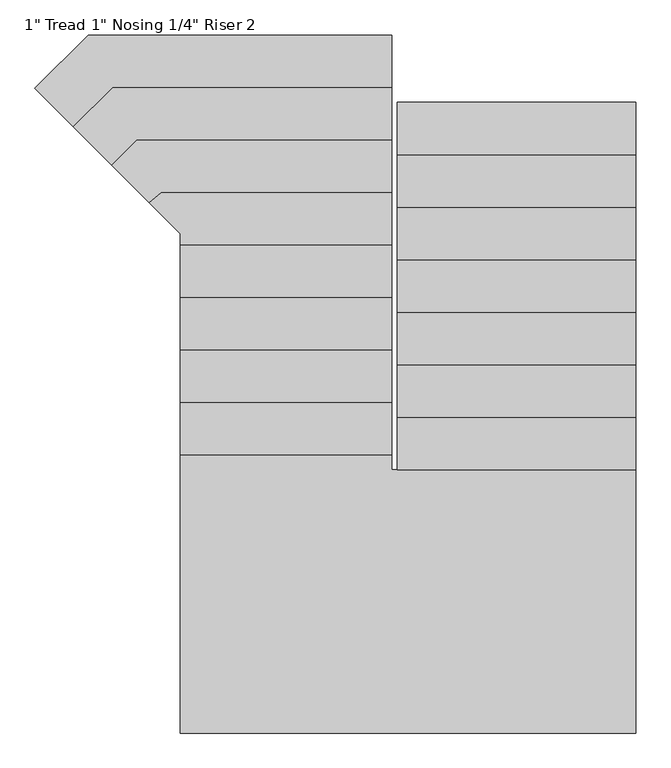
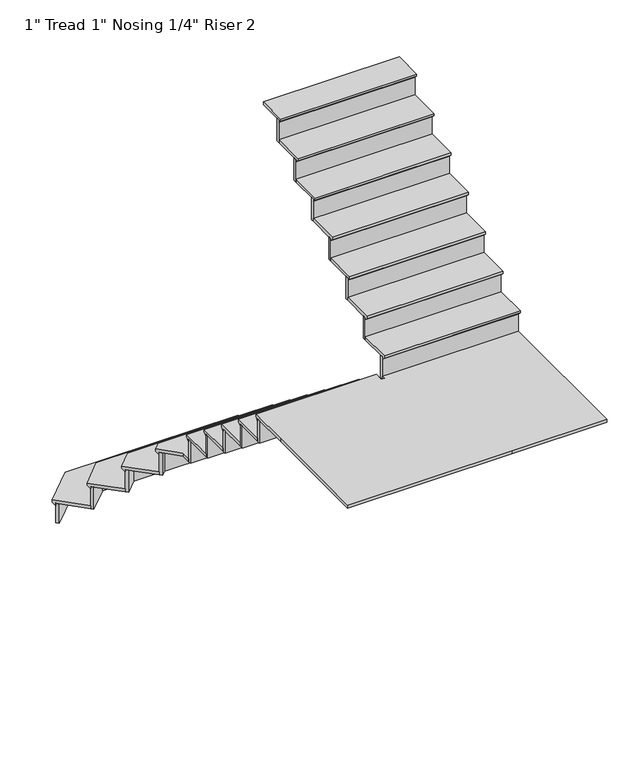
"""IFC4 building model written with IfcOpenShell, lengths in millimetres: stair flight geometry."""

from ifc_helpers import new_model, si_unit, origin, place, context, project, spatial, faceted_brep, source, transform, mapped, element, save


def stair_flight_4c4e7644(model_context):
    return source(origin(), model_context, "Body", "Brep", [
        faceted_brep([(3675.4082366, 3613.15, 172.24375), (3675.4082366, 3613.15, 191.29375), (5079.9999879, 3613.15, 191.29375), (5079.9999879, 3613.15, 172.24375), (3685.929261, 3587.75, 146.84375), (5079.9999879, 3587.75, 146.84375), (5079.9999879, 3587.75, 165.89375), (3685.929261, 3587.75, 165.89375), (3428.3791183, 3366.1208817, 191.29375), (3624.2284939, 3170.2715061, 191.29375), (3798.5927029, 3344.6357152, 191.29375), (5079.9999879, 3344.6357152, 191.29375), (5079.9999879, 3344.6357152, 165.89375), (3798.5927029, 3344.6357152, 165.89375), (3624.2284939, 3170.2715061, 165.89375), (3446.3396305, 3348.1603695, 165.89375), (3428.3791183, 3366.1208817, 172.24375), (3446.3396305, 3348.1603695, 146.84375)], [[[0, 1, 2, 3]], [[4, 0, 3, 5]], [[4, 5, 6, 7]], [[2, 1, 8, 9, 10, 11]], [[6, 12, 13, 14, 15, 7]], [[2, 11, 12, 6, 5, 3]], [[9, 8, 16, 17, 15, 14]], [[11, 10, 13, 12]], [[16, 8, 1, 0]], [[17, 16, 0, 4]], [[17, 4, 7, 15]], [[10, 9, 14, 13]]]),
        faceted_brep([(5079.9999879, 3587.75, 165.89375), (5079.9999879, 3562.35, 165.89375), (5079.9999879, 3562.35, 0.0), (5079.9999879, 3587.75, 0.0), (3685.929261, 3587.75, 0.0), (3685.929261, 3587.75, 165.89375), (3696.4502855, 3562.35, 0.0), (3696.4502855, 3562.35, 165.89375), (3446.3396305, 3348.1603695, 165.89375), (3446.3396305, 3348.1603695, 0.0), (3464.3001428, 3330.1998572, 0.0), (3464.3001428, 3330.1998572, 165.89375)], [[[0, 1, 2, 3]], [[4, 5, 0, 3]], [[6, 4, 3, 2]], [[7, 6, 2, 1]], [[5, 7, 1, 0]], [[8, 9, 10, 11]], [[9, 8, 5, 4]], [[10, 9, 4, 6]], [[11, 10, 6, 7]], [[8, 11, 7, 5]]]),
        faceted_brep([(5079.9999879, 3344.6357152, 357.1875), (5079.9999879, 3319.2357152, 357.1875), (5079.9999879, 3319.2357152, 165.89375), (5079.9999879, 3344.6357152, 165.89375), (3798.5927029, 3344.6357152, 165.89375), (3798.5927029, 3344.6357152, 357.1875), (3809.1137274, 3319.2357152, 165.89375), (3809.1137274, 3319.2357152, 357.1875), (3624.2284939, 3170.2715061, 357.1875), (3624.2284939, 3170.2715061, 165.89375), (3642.1890061, 3152.3109939, 165.89375), (3642.1890061, 3152.3109939, 357.1875)], [[[0, 1, 2, 3]], [[4, 5, 0, 3]], [[6, 4, 3, 2]], [[7, 6, 2, 1]], [[5, 7, 1, 0]], [[8, 9, 10, 11]], [[9, 8, 5, 4]], [[10, 9, 4, 6]], [[11, 10, 6, 7]], [[8, 11, 7, 5]]]),
        faceted_brep([(5079.9999879, 3370.0357152, 382.5875), (3788.0716784, 3370.0357152, 382.5875), (3606.2679816, 3188.2320184, 382.5875), (3802.1173572, 2992.3826428, 382.5875), (3911.2561447, 3101.5214303, 382.5875), (5079.9999879, 3101.5214303, 382.5875), (5079.9999879, 3344.6357152, 357.1875), (5079.9999879, 3101.5214303, 357.1875), (3911.2561447, 3101.5214303, 357.1875), (3802.1173572, 2992.3826428, 357.1875), (3624.2284939, 3170.2715061, 357.1875), (3798.5927029, 3344.6357152, 357.1875), (5079.9999879, 3344.6357152, 338.1375), (5079.9999879, 3370.0357152, 363.5375), (3606.2679816, 3188.2320184, 363.5375), (3624.2284939, 3170.2715061, 338.1375), (3788.0716784, 3370.0357152, 363.5375), (3798.5927029, 3344.6357152, 338.1375)], [[[0, 1, 2, 3, 4, 5]], [[6, 7, 8, 9, 10, 11]], [[0, 5, 7, 6, 12, 13]], [[3, 2, 14, 15, 10, 9]], [[5, 4, 8, 7]], [[16, 1, 0, 13]], [[17, 16, 13, 12]], [[17, 12, 6, 11]], [[4, 3, 9, 8]], [[14, 2, 1, 16]], [[15, 14, 16, 17]], [[15, 17, 11, 10]]]),
        faceted_brep([(4102.0996703, 1885.9499516, 1504.95), (4102.0996703, 1885.9499516, 1313.65625), (4102.0996703, 1860.5499516, 1313.65625), (4102.0996703, 1860.5499516, 1504.95), (5079.9999879, 1885.9499516, 1504.95), (5079.9999879, 1860.5499516, 1504.95), (5079.9999879, 1860.5499516, 1313.65625), (5079.9999879, 1885.9499516, 1313.65625)], [[[0, 1, 2, 3]], [[4, 5, 6, 7]], [[1, 0, 4, 7]], [[2, 1, 7, 6]], [[3, 2, 6, 5]], [[0, 3, 5, 4]]]),
        faceted_brep([(5079.9999879, 1911.3499516, 1530.35), (4102.0996703, 1911.3499516, 1530.35), (4102.0996703, 1642.8357212, 1530.35), (5079.9999879, 1642.8357212, 1530.35), (5079.9999879, 1885.9499516, 1504.95), (5079.9999879, 1642.8357212, 1504.95), (4102.0996703, 1642.8357212, 1504.95), (4102.0996703, 1885.9499516, 1504.95), (5079.9999879, 1885.9499516, 1485.9), (5079.9999879, 1911.3499516, 1511.3), (4102.0996703, 1911.3499516, 1511.3), (4102.0996703, 1885.9499516, 1485.9)], [[[0, 1, 2, 3]], [[4, 5, 6, 7]], [[0, 3, 5, 4, 8, 9]], [[2, 1, 10, 11, 7, 6]], [[3, 2, 6, 5]], [[10, 1, 0, 9]], [[11, 10, 9, 8]], [[11, 8, 4, 7]]]),
        faceted_brep([(4102.0996703, 1642.8357212, 1696.24375), (4102.0996703, 1642.8357212, 1504.95), (4102.0996703, 1617.4357212, 1504.95), (4102.0996703, 1617.4357212, 1696.24375), (5079.9999879, 1642.8357212, 1696.24375), (5079.9999879, 1617.4357212, 1696.24375), (5079.9999879, 1617.4357212, 1504.95), (5079.9999879, 1642.8357212, 1504.95)], [[[0, 1, 2, 3]], [[4, 5, 6, 7]], [[1, 0, 4, 7]], [[2, 1, 7, 6]], [[3, 2, 6, 5]], [[0, 3, 5, 4]]]),
        faceted_brep([(5105.4, 1625.6000484, 1721.64375), (5105.4, 1600.2000484, 1721.64375), (5079.9999879, 1600.2000484, 1721.64375), (5079.9999879, 1668.2357212, 1721.64375), (4102.0996703, 1668.2357212, 1721.64375), (4102.0996703, 1324.5030231, 1721.64375), (4102.0996703, 380.9621433, 1721.64375), (5438.3235129, 380.9621433, 1721.64375), (6210.2999999, 380.9621433, 1721.64375), (6210.2999999, 1600.2000484, 1721.64375), (6210.2999999, 1625.6000484, 1721.64375), (5105.4, 1600.2000484, 1696.24375), (5105.4, 1625.6000484, 1696.24375), (6210.2999999, 1625.6000484, 1696.24375), (6210.2999999, 1600.2000484, 1696.24375), (6210.2999999, 380.9621433, 1696.24375), (5438.3235129, 380.9621433, 1696.24375), (4102.0996703, 380.9621433, 1696.24375), (4102.0996703, 1324.5030231, 1696.24375), (4102.0996703, 1642.8357212, 1696.24375), (5079.9999879, 1642.8357212, 1696.24375), (5079.9999879, 1600.2000484, 1696.24375), (4102.0996703, 1668.2357212, 1702.59375), (4102.0996703, 1642.8357212, 1677.19375), (5079.9999879, 1668.2357212, 1702.59375), (5079.9999879, 1642.8357212, 1677.19375)], [[[0, 1, 2, 3, 4, 5, 6, 7, 8, 9, 10]], [[11, 12, 13, 14, 15, 16, 17, 18, 19, 20, 21]], [[1, 0, 12, 11]], [[2, 1, 11, 21]], [[5, 4, 22, 23, 19, 18]], [[6, 5, 18, 17]], [[7, 6, 17, 16]], [[8, 7, 16, 15]], [[0, 10, 13, 12]], [[23, 22, 24, 25]], [[23, 25, 20, 19]], [[3, 2, 21, 20, 25, 24]], [[9, 8, 15, 14]], [[10, 9, 14, 13]], [[22, 4, 3, 24]]]),
        faceted_brep([(6210.2999999, 1625.6000484, 1887.5375), (6210.2999999, 1625.6000484, 1696.24375), (6210.2999999, 1651.0000484, 1696.24375), (6210.2999999, 1651.0000484, 1887.5375), (5105.4, 1625.6000484, 1887.5375), (5105.4, 1651.0000484, 1887.5375), (5105.4, 1651.0000484, 1696.24375), (5105.4, 1625.6000484, 1696.24375)], [[[0, 1, 2, 3]], [[4, 5, 6, 7]], [[1, 0, 4, 7]], [[2, 1, 7, 6]], [[3, 2, 6, 5]], [[0, 3, 5, 4]]]),
        faceted_brep([(5105.4, 1600.2000484, 1912.9375), (6210.2999999, 1600.2000484, 1912.9375), (6210.2999999, 1868.7142788, 1912.9375), (5105.4, 1868.7142788, 1912.9375), (5105.4, 1625.6000484, 1887.5375), (5105.4, 1868.7142788, 1887.5375), (6210.2999999, 1868.7142788, 1887.5375), (6210.2999999, 1625.6000484, 1887.5375), (5105.4, 1625.6000484, 1868.4875), (5105.4, 1600.2000484, 1893.8875), (6210.2999999, 1600.2000484, 1893.8875), (6210.2999999, 1625.6000484, 1868.4875)], [[[0, 1, 2, 3]], [[4, 5, 6, 7]], [[0, 3, 5, 4, 8, 9]], [[2, 1, 10, 11, 7, 6]], [[3, 2, 6, 5]], [[10, 1, 0, 9]], [[11, 10, 9, 8]], [[11, 8, 4, 7]]]),
        faceted_brep([(6210.2999999, 1868.7142788, 2078.83125), (6210.2999999, 1868.7142788, 1887.5375), (6210.2999999, 1894.1142788, 1887.5375), (6210.2999999, 1894.1142788, 2078.83125), (5105.4, 1868.7142788, 2078.83125), (5105.4, 1894.1142788, 2078.83125), (5105.4, 1894.1142788, 1887.5375), (5105.4, 1868.7142788, 1887.5375)], [[[0, 1, 2, 3]], [[4, 5, 6, 7]], [[1, 0, 4, 7]], [[2, 1, 7, 6]], [[3, 2, 6, 5]], [[0, 3, 5, 4]]]),
        faceted_brep([(5105.4, 1843.3142788, 2104.23125), (6210.2999999, 1843.3142788, 2104.23125), (6210.2999999, 2111.8285091, 2104.23125), (5105.4, 2111.8285091, 2104.23125), (5105.4, 1868.7142788, 2078.83125), (5105.4, 2111.8285091, 2078.83125), (6210.2999999, 2111.8285091, 2078.83125), (6210.2999999, 1868.7142788, 2078.83125), (5105.4, 1868.7142788, 2059.78125), (5105.4, 1843.3142788, 2085.18125), (6210.2999999, 1843.3142788, 2085.18125), (6210.2999999, 1868.7142788, 2059.78125)], [[[0, 1, 2, 3]], [[4, 5, 6, 7]], [[0, 3, 5, 4, 8, 9]], [[2, 1, 10, 11, 7, 6]], [[3, 2, 6, 5]], [[10, 1, 0, 9]], [[11, 10, 9, 8]], [[11, 8, 4, 7]]]),
        faceted_brep([(5079.9999879, 3101.5214303, 548.48125), (5079.9999879, 3076.1214303, 548.48125), (5079.9999879, 3076.1214303, 357.1875), (5079.9999879, 3101.5214303, 357.1875), (3911.2561447, 3101.5214303, 357.1875), (3911.2561447, 3101.5214303, 548.48125), (3921.7771692, 3076.1214303, 357.1875), (3921.7771692, 3076.1214303, 548.48125), (3802.1173572, 2992.3826428, 548.48125), (3802.1173572, 2992.3826428, 357.1875), (3820.0778695, 2974.4221305, 357.1875), (3820.0778695, 2974.4221305, 548.48125)], [[[0, 1, 2, 3]], [[4, 5, 0, 3]], [[6, 4, 3, 2]], [[7, 6, 2, 1]], [[5, 7, 1, 0]], [[8, 9, 10, 11]], [[9, 8, 5, 4]], [[10, 9, 4, 6]], [[11, 10, 6, 7]], [[8, 11, 7, 5]]]),
        faceted_brep([(5079.9999879, 3126.9214303, 573.88125), (3900.7351203, 3126.9214303, 573.88125), (3784.156845, 3010.343155, 573.88125), (3976.9230716, 2817.5769284, 573.88125), (4022.8570861, 2858.4071636, 573.88125), (5079.9999879, 2858.4071636, 573.88125), (5079.9999879, 3101.5214303, 548.48125), (5079.9999879, 2858.4071636, 548.48125), (4022.8570861, 2858.4071636, 548.48125), (3976.9230716, 2817.5769284, 548.48125), (3802.1173572, 2992.3826428, 548.48125), (3911.2561447, 3101.5214303, 548.48125), (5079.9999879, 3101.5214303, 529.43125), (5079.9999879, 3126.9214303, 554.83125), (3784.156845, 3010.343155, 554.83125), (3802.1173572, 2992.3826428, 529.43125), (3900.7351203, 3126.9214303, 554.83125), (3911.2561447, 3101.5214303, 529.43125)], [[[0, 1, 2, 3, 4, 5]], [[6, 7, 8, 9, 10, 11]], [[0, 5, 7, 6, 12, 13]], [[3, 2, 14, 15, 10, 9]], [[5, 4, 8, 7]], [[16, 1, 0, 13]], [[17, 16, 13, 12]], [[17, 12, 6, 11]], [[4, 3, 9, 8]], [[14, 2, 1, 16]], [[15, 14, 16, 17]], [[15, 17, 11, 10]]]),
        faceted_brep([(6210.2999999, 3084.2857212, 3035.3), (6210.2999999, 3084.2857212, 2844.00625), (6210.2999999, 3109.6857212, 2844.00625), (6210.2999999, 3109.6857212, 3035.3), (5105.4, 3084.2857212, 3035.3), (5105.4, 3109.6857212, 3035.3), (5105.4, 3109.6857212, 2844.00625), (5105.4, 3084.2857212, 2844.00625)], [[[0, 1, 2, 3]], [[4, 5, 6, 7]], [[1, 0, 4, 7]], [[2, 1, 7, 6]], [[3, 2, 6, 5]], [[0, 3, 5, 4]]]),
        faceted_brep([(5105.4, 3058.8857212, 3060.7), (6210.2999999, 3058.8857212, 3060.7), (6210.2999999, 3301.9716587, 3060.7), (5105.4, 3301.9716587, 3060.7), (5105.4, 3084.2857212, 3035.3), (5105.4, 3301.9716587, 3035.3), (6210.2999999, 3301.9716587, 3035.3), (6210.2999999, 3084.2857212, 3035.3), (5105.4, 3084.2857212, 3016.25), (5105.4, 3058.8857212, 3041.65), (6210.2999999, 3058.8857212, 3041.65), (6210.2999999, 3084.2857212, 3016.25)], [[[0, 1, 2, 3]], [[4, 5, 6, 7]], [[0, 3, 5, 4, 8, 9]], [[2, 1, 10, 11, 7, 6]], [[3, 2, 6, 5]], [[10, 1, 0, 9]], [[11, 10, 9, 8]], [[11, 8, 4, 7]]]),
        faceted_brep([(3976.9230716, 2817.5769284, 739.775), (3976.9230716, 2817.5769284, 548.48125), (3994.9146305, 2799.5853695, 548.48125), (3994.9146305, 2799.5853695, 739.775), (4022.8570861, 2858.4071636, 739.775), (4022.8570861, 2858.4071636, 548.48125), (4032.5141489, 2833.0071636, 548.48125), (4032.5141489, 2833.0071636, 739.775), (5079.9999879, 2858.4071636, 739.775), (5079.9999879, 2833.0071636, 739.775), (5079.9999879, 2833.0071636, 548.48125), (5079.9999879, 2858.4071636, 548.48125)], [[[0, 1, 2, 3]], [[1, 0, 4, 5]], [[2, 1, 5, 6]], [[3, 2, 6, 7]], [[0, 3, 7, 4]], [[8, 9, 10, 11]], [[5, 4, 8, 11]], [[6, 5, 11, 10]], [[7, 6, 10, 9]], [[4, 7, 9, 8]]]),
        faceted_brep([(5079.9999879, 2883.8071636, 765.175), (4013.2000234, 2883.8071636, 765.175), (3958.9315126, 2835.5684874, 765.175), (4102.0996703, 2692.4003297, 765.175), (4102.0996703, 2615.2928606, 765.175), (5079.9999879, 2615.2928606, 765.175), (5079.9999879, 2858.4071636, 739.775), (5079.9999879, 2615.2928606, 739.775), (4102.0996703, 2615.2928606, 739.775), (4102.0996703, 2692.4003297, 739.775), (3976.9230716, 2817.5769284, 739.775), (4022.8570861, 2858.4071636, 739.775), (5079.9999879, 2858.4071636, 720.725), (5079.9999879, 2883.8071636, 746.125), (3958.9315126, 2835.5684874, 746.125), (3976.9230716, 2817.5769284, 720.725), (4013.2000234, 2883.8071636, 746.125), (4022.8570861, 2858.4071636, 720.725)], [[[0, 1, 2, 3, 4, 5]], [[6, 7, 8, 9, 10, 11]], [[0, 5, 7, 6, 12, 13]], [[3, 2, 14, 15, 10, 9]], [[4, 3, 9, 8]], [[5, 4, 8, 7]], [[14, 2, 1, 16]], [[15, 14, 16, 17]], [[15, 17, 11, 10]], [[16, 1, 0, 13]], [[17, 16, 13, 12]], [[17, 12, 6, 11]]]),
        faceted_brep([(4102.0996703, 2615.2928606, 931.06875), (4102.0996703, 2615.2928606, 739.775), (4102.0996703, 2589.8928606, 739.775), (4102.0996703, 2589.8928606, 931.06875), (5079.9999879, 2615.2928606, 931.06875), (5079.9999879, 2589.8928606, 931.06875), (5079.9999879, 2589.8928606, 739.775), (5079.9999879, 2615.2928606, 739.775)], [[[0, 1, 2, 3]], [[4, 5, 6, 7]], [[1, 0, 4, 7]], [[2, 1, 7, 6]], [[3, 2, 6, 5]], [[0, 3, 5, 4]]]),
        faceted_brep([(5079.9999879, 2640.6928606, 956.46875), (4102.0996703, 2640.6928606, 956.46875), (4102.0996703, 2372.1785576, 956.46875), (5079.9999879, 2372.1785576, 956.46875), (5079.9999879, 2615.2928606, 931.06875), (5079.9999879, 2372.1785576, 931.06875), (4102.0996703, 2372.1785576, 931.06875), (4102.0996703, 2615.2928606, 931.06875), (5079.9999879, 2615.2928606, 912.01875), (5079.9999879, 2640.6928606, 937.41875), (4102.0996703, 2640.6928606, 937.41875), (4102.0996703, 2615.2928606, 912.01875)], [[[0, 1, 2, 3]], [[4, 5, 6, 7]], [[0, 3, 5, 4, 8, 9]], [[2, 1, 10, 11, 7, 6]], [[3, 2, 6, 5]], [[10, 1, 0, 9]], [[11, 10, 9, 8]], [[11, 8, 4, 7]]]),
        faceted_brep([(4102.0996703, 2372.1785576, 1122.3625), (4102.0996703, 2372.1785576, 931.06875), (4102.0996703, 2346.7785576, 931.06875), (4102.0996703, 2346.7785576, 1122.3625), (5079.9999879, 2372.1785576, 1122.3625), (5079.9999879, 2346.7785576, 1122.3625), (5079.9999879, 2346.7785576, 931.06875), (5079.9999879, 2372.1785576, 931.06875)], [[[0, 1, 2, 3]], [[4, 5, 6, 7]], [[1, 0, 4, 7]], [[2, 1, 7, 6]], [[3, 2, 6, 5]], [[0, 3, 5, 4]]]),
        faceted_brep([(5079.9999879, 2397.5785576, 1147.7625), (4102.0996703, 2397.5785576, 1147.7625), (4102.0996703, 2129.0643272, 1147.7625), (5079.9999879, 2129.0643272, 1147.7625), (5079.9999879, 2372.1785576, 1122.3625), (5079.9999879, 2129.0643272, 1122.3625), (4102.0996703, 2129.0643272, 1122.3625), (4102.0996703, 2372.1785576, 1122.3625), (5079.9999879, 2372.1785576, 1103.3125), (5079.9999879, 2397.5785576, 1128.7125), (4102.0996703, 2397.5785576, 1128.7125), (4102.0996703, 2372.1785576, 1103.3125)], [[[0, 1, 2, 3]], [[4, 5, 6, 7]], [[0, 3, 5, 4, 8, 9]], [[2, 1, 10, 11, 7, 6]], [[3, 2, 6, 5]], [[10, 1, 0, 9]], [[11, 10, 9, 8]], [[11, 8, 4, 7]]]),
        faceted_brep([(4102.0996703, 2129.0643272, 1313.65625), (4102.0996703, 2129.0643272, 1122.3625), (4102.0996703, 2103.6643272, 1122.3625), (4102.0996703, 2103.6643272, 1313.65625), (5079.9999879, 2129.0643272, 1313.65625), (5079.9999879, 2103.6643272, 1313.65625), (5079.9999879, 2103.6643272, 1122.3625), (5079.9999879, 2129.0643272, 1122.3625)], [[[0, 1, 2, 3]], [[4, 5, 6, 7]], [[1, 0, 4, 7]], [[2, 1, 7, 6]], [[3, 2, 6, 5]], [[0, 3, 5, 4]]]),
        faceted_brep([(5079.9999879, 2154.4643272, 1339.05625), (4102.0996703, 2154.4643272, 1339.05625), (4102.0996703, 1885.9499516, 1339.05625), (5079.9999879, 1885.9499516, 1339.05625), (5079.9999879, 2129.0643272, 1313.65625), (5079.9999879, 1885.9499516, 1313.65625), (4102.0996703, 1885.9499516, 1313.65625), (4102.0996703, 2129.0643272, 1313.65625), (5079.9999879, 2129.0643272, 1294.60625), (5079.9999879, 2154.4643272, 1320.00625), (4102.0996703, 2154.4643272, 1320.00625), (4102.0996703, 2129.0643272, 1294.60625)], [[[0, 1, 2, 3]], [[4, 5, 6, 7]], [[0, 3, 5, 4, 8, 9]], [[2, 1, 10, 11, 7, 6]], [[3, 2, 6, 5]], [[10, 1, 0, 9]], [[11, 10, 9, 8]], [[11, 8, 4, 7]]]),
        faceted_brep([(6210.2999999, 2111.8285091, 2270.125), (6210.2999999, 2111.8285091, 2078.83125), (6210.2999999, 2137.2285091, 2078.83125), (6210.2999999, 2137.2285091, 2270.125), (5105.4, 2111.8285091, 2270.125), (5105.4, 2137.2285091, 2270.125), (5105.4, 2137.2285091, 2078.83125), (5105.4, 2111.8285091, 2078.83125)], [[[0, 1, 2, 3]], [[4, 5, 6, 7]], [[1, 0, 4, 7]], [[2, 1, 7, 6]], [[3, 2, 6, 5]], [[0, 3, 5, 4]]]),
        faceted_brep([(5105.4, 2086.4285091, 2295.525), (6210.2999999, 2086.4285091, 2295.525), (6210.2999999, 2354.9428848, 2295.525), (5105.4, 2354.9428848, 2295.525), (5105.4, 2111.8285091, 2270.125), (5105.4, 2354.9428848, 2270.125), (6210.2999999, 2354.9428848, 2270.125), (6210.2999999, 2111.8285091, 2270.125), (5105.4, 2111.8285091, 2251.075), (5105.4, 2086.4285091, 2276.475), (6210.2999999, 2086.4285091, 2276.475), (6210.2999999, 2111.8285091, 2251.075)], [[[0, 1, 2, 3]], [[4, 5, 6, 7]], [[0, 3, 5, 4, 8, 9]], [[2, 1, 10, 11, 7, 6]], [[3, 2, 6, 5]], [[10, 1, 0, 9]], [[11, 10, 9, 8]], [[11, 8, 4, 7]]]),
        faceted_brep([(6210.2999999, 2354.9428848, 2461.41875), (6210.2999999, 2354.9428848, 2270.125), (6210.2999999, 2380.3428848, 2270.125), (6210.2999999, 2380.3428848, 2461.41875), (5105.4, 2354.9428848, 2461.41875), (5105.4, 2380.3428848, 2461.41875), (5105.4, 2380.3428848, 2270.125), (5105.4, 2354.9428848, 2270.125)], [[[0, 1, 2, 3]], [[4, 5, 6, 7]], [[1, 0, 4, 7]], [[2, 1, 7, 6]], [[3, 2, 6, 5]], [[0, 3, 5, 4]]]),
        faceted_brep([(5105.4, 2329.5428848, 2486.81875), (6210.2999999, 2329.5428848, 2486.81875), (6210.2999999, 2598.0571152, 2486.81875), (5105.4, 2598.0571152, 2486.81875), (5105.4, 2354.9428848, 2461.41875), (5105.4, 2598.0571152, 2461.41875), (6210.2999999, 2598.0571152, 2461.41875), (6210.2999999, 2354.9428848, 2461.41875), (5105.4, 2354.9428848, 2442.36875), (5105.4, 2329.5428848, 2467.76875), (6210.2999999, 2329.5428848, 2467.76875), (6210.2999999, 2354.9428848, 2442.36875)], [[[0, 1, 2, 3]], [[4, 5, 6, 7]], [[0, 3, 5, 4, 8, 9]], [[2, 1, 10, 11, 7, 6]], [[3, 2, 6, 5]], [[10, 1, 0, 9]], [[11, 10, 9, 8]], [[11, 8, 4, 7]]]),
        faceted_brep([(6210.2999999, 2598.0571152, 2652.7125), (6210.2999999, 2598.0571152, 2461.41875), (6210.2999999, 2623.4571152, 2461.41875), (6210.2999999, 2623.4571152, 2652.7125), (5105.4, 2598.0571152, 2652.7125), (5105.4, 2623.4571152, 2652.7125), (5105.4, 2623.4571152, 2461.41875), (5105.4, 2598.0571152, 2461.41875)], [[[0, 1, 2, 3]], [[4, 5, 6, 7]], [[1, 0, 4, 7]], [[2, 1, 7, 6]], [[3, 2, 6, 5]], [[0, 3, 5, 4]]]),
        faceted_brep([(5105.4, 2572.6571152, 2678.1125), (6210.2999999, 2572.6571152, 2678.1125), (6210.2999999, 2841.1714182, 2678.1125), (5105.4, 2841.1714182, 2678.1125), (5105.4, 2598.0571152, 2652.7125), (5105.4, 2841.1714182, 2652.7125), (6210.2999999, 2841.1714182, 2652.7125), (6210.2999999, 2598.0571152, 2652.7125), (5105.4, 2598.0571152, 2633.6625), (5105.4, 2572.6571152, 2659.0625), (6210.2999999, 2572.6571152, 2659.0625), (6210.2999999, 2598.0571152, 2633.6625)], [[[0, 1, 2, 3]], [[4, 5, 6, 7]], [[0, 3, 5, 4, 8, 9]], [[2, 1, 10, 11, 7, 6]], [[3, 2, 6, 5]], [[10, 1, 0, 9]], [[11, 10, 9, 8]], [[11, 8, 4, 7]]]),
        faceted_brep([(6210.2999999, 2841.1714182, 2844.00625), (6210.2999999, 2841.1714182, 2652.7125), (6210.2999999, 2866.5714182, 2652.7125), (6210.2999999, 2866.5714182, 2844.00625), (5105.4, 2841.1714182, 2844.00625), (5105.4, 2866.5714182, 2844.00625), (5105.4, 2866.5714182, 2652.7125), (5105.4, 2841.1714182, 2652.7125)], [[[0, 1, 2, 3]], [[4, 5, 6, 7]], [[1, 0, 4, 7]], [[2, 1, 7, 6]], [[3, 2, 6, 5]], [[0, 3, 5, 4]]]),
        faceted_brep([(5105.4, 2815.7714182, 2869.40625), (6210.2999999, 2815.7714182, 2869.40625), (6210.2999999, 3084.2857212, 2869.40625), (5105.4, 3084.2857212, 2869.40625), (5105.4, 2841.1714182, 2844.00625), (5105.4, 3084.2857212, 2844.00625), (6210.2999999, 3084.2857212, 2844.00625), (6210.2999999, 2841.1714182, 2844.00625), (5105.4, 2841.1714182, 2824.95625), (5105.4, 2815.7714182, 2850.35625), (6210.2999999, 2815.7714182, 2850.35625), (6210.2999999, 2841.1714182, 2824.95625)], [[[0, 1, 2, 3]], [[4, 5, 6, 7]], [[0, 3, 5, 4, 8, 9]], [[2, 1, 10, 11, 7, 6]], [[3, 2, 6, 5]], [[10, 1, 0, 9]], [[11, 10, 9, 8]], [[11, 8, 4, 7]]]),
    ])


if __name__ == "__main__":
    model = new_model("IFC4")
    model_context = context("Model", 3, world=origin())
    ifc_project = project(units=[si_unit("LENGTHUNIT", "METRE", prefix="MILLI")], contexts=[model_context])
    site = spatial("IfcSite", under=ifc_project)
    building = spatial("IfcBuilding", under=site)
    placement = place(None, origin())
    stair_flight_shape = stair_flight_4c4e7644(model_context)
    element("IfcStairFlight", 1, ObjectType="1\" Tread 1\" Nosing 1/4\" Riser 2", at=placement, inside=building, context=model_context, shape_type="MappedRepresentation", body=[
        mapped(stair_flight_shape, transform((0.0, 0.0, 0.0), x_axis=(1.0, 0.0, 0.0), y_axis=(0.0, 1.0, 0.0), z_axis=(0.0, 0.0, 1.0))),
    ])
    save(model, "model.ifc")
